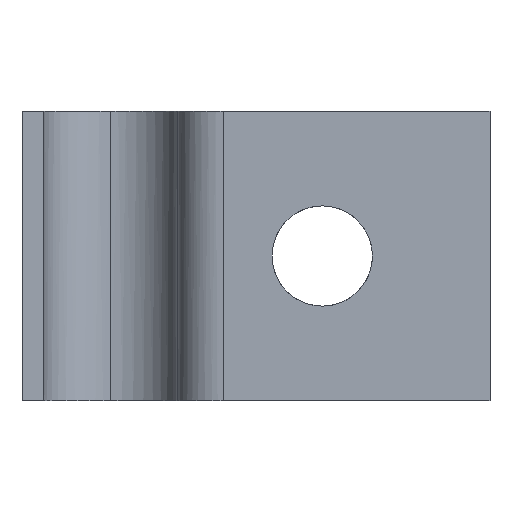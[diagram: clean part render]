
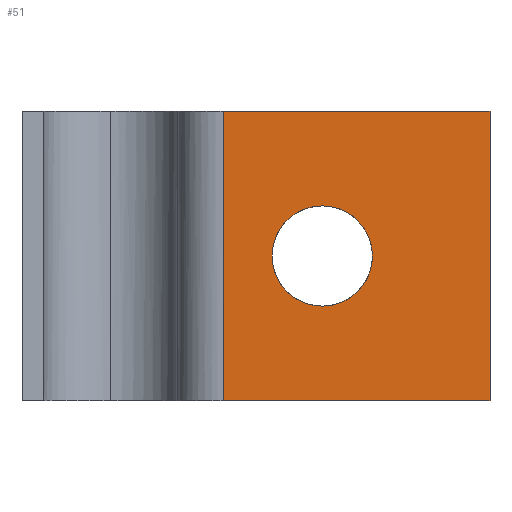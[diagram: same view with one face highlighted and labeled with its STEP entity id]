
A CAD part, front view. The second image highlights one B-rep face of the part: STEP entity #51.
In plain terms, the highlighted planar face has unit normal (0, -1, 0).
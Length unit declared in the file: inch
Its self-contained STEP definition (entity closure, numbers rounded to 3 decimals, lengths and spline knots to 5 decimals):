
#51=ADVANCED_FACE('',(#113,#114),#115,.T.);
#113=FACE_BOUND('',#190,.T.);
#114=FACE_OUTER_BOUND('',#191,.T.);
#115=PLANE('',#192);
#190=EDGE_LOOP('',(#332,#333,#334,#335));
#191=EDGE_LOOP('',(#336,#337,#338,#339));
#192=AXIS2_PLACEMENT_3D('',#340,#341,#342);
#332=ORIENTED_EDGE('',*,*,#484,.T.);
#333=ORIENTED_EDGE('',*,*,#485,.T.);
#334=ORIENTED_EDGE('',*,*,#486,.T.);
#335=ORIENTED_EDGE('',*,*,#487,.T.);
#336=ORIENTED_EDGE('',*,*,#488,.T.);
#337=ORIENTED_EDGE('',*,*,#482,.F.);
#338=ORIENTED_EDGE('',*,*,#489,.T.);
#339=ORIENTED_EDGE('',*,*,#476,.T.);
#340=CARTESIAN_POINT('',(0.93855,-0.12798,0.0));
#341=DIRECTION('',(0.0,-1.0,0.0));
#342=DIRECTION('',(1.0,0.0,0.0));
#476=EDGE_CURVE('',#560,#558,#561,.T.);
#482=EDGE_CURVE('',#569,#564,#571,.T.);
#484=EDGE_CURVE('',#573,#574,#575,.T.);
#485=EDGE_CURVE('',#574,#576,#577,.T.);
#486=EDGE_CURVE('',#576,#578,#579,.T.);
#487=EDGE_CURVE('',#578,#573,#580,.T.);
#488=EDGE_CURVE('',#558,#564,#581,.T.);
#489=EDGE_CURVE('',#569,#560,#582,.T.);
#558=VERTEX_POINT('',#685);
#560=VERTEX_POINT('',#688);
#561=LINE('',#689,#690);
#564=VERTEX_POINT('',#694);
#569=VERTEX_POINT('',#703);
#571=LINE('',#708,#709);
#573=VERTEX_POINT('',#711);
#574=VERTEX_POINT('',#712);
#575=B_SPLINE_CURVE_WITH_KNOTS('',3,(#713,#714,#715,#716),.UNSPECIFIED.,.F.,.F.,(4,4),(0.0,1.0),.UNSPECIFIED.);
#576=VERTEX_POINT('',#717);
#577=B_SPLINE_CURVE_WITH_KNOTS('',3,(#718,#719,#720,#721),.UNSPECIFIED.,.F.,.F.,(4,4),(0.0,1.0),.UNSPECIFIED.);
#578=VERTEX_POINT('',#722);
#579=B_SPLINE_CURVE_WITH_KNOTS('',3,(#723,#724,#725,#726),.UNSPECIFIED.,.F.,.F.,(4,4),(0.0,1.0),.UNSPECIFIED.);
#580=B_SPLINE_CURVE_WITH_KNOTS('',3,(#727,#728,#729,#730),.UNSPECIFIED.,.F.,.F.,(4,4),(0.0,1.0),.UNSPECIFIED.);
#581=LINE('',#731,#732);
#582=LINE('',#733,#734);
#685=CARTESIAN_POINT('',(1.31246,-0.12798,0.8125));
#688=CARTESIAN_POINT('',(1.31246,-0.12798,0.0));
#689=CARTESIAN_POINT('',(1.31246,-0.12798,0.0));
#690=VECTOR('',#861,1.0);
#694=CARTESIAN_POINT('',(0.56463,-0.12798,0.8125));
#703=CARTESIAN_POINT('',(0.56463,-0.12798,0.0));
#708=CARTESIAN_POINT('',(0.56463,-0.12798,0.0));
#709=VECTOR('',#864,1.0);
#711=CARTESIAN_POINT('',(0.7014,-0.12798,0.40624));
#712=CARTESIAN_POINT('',(0.84206,-0.12798,0.5469));
#713=CARTESIAN_POINT('',(0.7014,-0.12798,0.40624));
#714=CARTESIAN_POINT('',(0.7014,-0.12798,0.48393));
#715=CARTESIAN_POINT('',(0.76438,-0.12798,0.5469));
#716=CARTESIAN_POINT('',(0.84206,-0.12798,0.5469));
#717=CARTESIAN_POINT('',(0.98271,-0.12798,0.40624));
#718=CARTESIAN_POINT('',(0.84206,-0.12798,0.5469));
#719=CARTESIAN_POINT('',(0.91973,-0.12798,0.5469));
#720=CARTESIAN_POINT('',(0.98271,-0.12798,0.48393));
#721=CARTESIAN_POINT('',(0.98271,-0.12798,0.40624));
#722=CARTESIAN_POINT('',(0.84206,-0.12798,0.26559));
#723=CARTESIAN_POINT('',(0.98271,-0.12798,0.40624));
#724=CARTESIAN_POINT('',(0.98271,-0.12798,0.32858));
#725=CARTESIAN_POINT('',(0.91973,-0.12798,0.26559));
#726=CARTESIAN_POINT('',(0.84206,-0.12798,0.26559));
#727=CARTESIAN_POINT('',(0.84206,-0.12798,0.26559));
#728=CARTESIAN_POINT('',(0.76438,-0.12798,0.26559));
#729=CARTESIAN_POINT('',(0.7014,-0.12798,0.32858));
#730=CARTESIAN_POINT('',(0.7014,-0.12798,0.40624));
#731=CARTESIAN_POINT('',(0.56463,-0.12798,0.8125));
#732=VECTOR('',#865,1.0);
#733=CARTESIAN_POINT('',(0.56463,-0.12798,0.0));
#734=VECTOR('',#866,1.0);
#861=DIRECTION('',(0.0,0.0,1.0));
#864=DIRECTION('',(0.0,0.0,1.0));
#865=DIRECTION('',(-1.0,-0.0,-0.0));
#866=DIRECTION('',(1.0,0.0,0.0));
